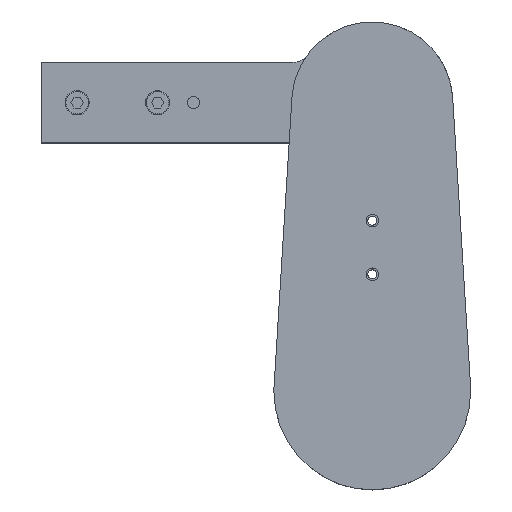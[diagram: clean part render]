
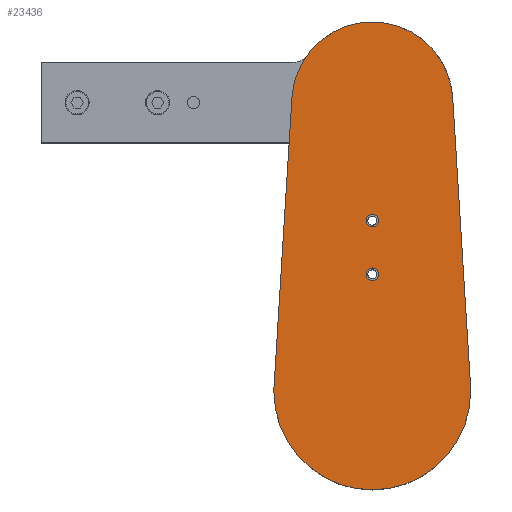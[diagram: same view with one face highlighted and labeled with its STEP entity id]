
A CAD part, top view. The second image highlights one B-rep face of the part: STEP entity #23436.
In plain terms, the highlighted planar face has unit normal (0, 0, 1) as drawn and (0, 0, -1) by its records, which use the part's own axes.
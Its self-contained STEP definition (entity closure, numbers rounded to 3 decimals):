
#355 = ORIENTED_EDGE ( 'NONE', *, *, #17053, .F. ) ;
#505 = VECTOR ( 'NONE', #28763, 1000. ) ;
#1197 = DIRECTION ( 'NONE',  ( 0., 0., 1. ) ) ;
#2006 = VERTEX_POINT ( 'NONE', #10545 ) ;
#2384 = EDGE_CURVE ( 'NONE', #33033, #23531, #34063, .T. ) ;
#2691 = CIRCLE ( 'NONE', #37302, 3.5 ) ;
#3336 = DIRECTION ( 'NONE',  ( 1., 0., 0. ) ) ;
#3681 = CARTESIAN_POINT ( 'NONE',  ( -44.914, 164.286, 0. ) ) ;
#3789 = VERTEX_POINT ( 'NONE', #31991 ) ;
#3832 = FACE_BOUND ( 'NONE', #16789, .T. ) ;
#5043 = DIRECTION ( 'NONE',  ( 1., 0., 0. ) ) ;
#5366 = ORIENTED_EDGE ( 'NONE', *, *, #8945, .F. ) ;
#5619 = CARTESIAN_POINT ( 'NONE',  ( -55., 0., 0. ) ) ;
#6025 = EDGE_CURVE ( 'NONE', #7250, #34264, #33856, .T. ) ;
#6193 = EDGE_CURVE ( 'NONE', #23531, #7250, #20326, .T. ) ;
#7250 = VERTEX_POINT ( 'NONE', #5619 ) ;
#7348 = DIRECTION ( 'NONE',  ( 1., 0., 0. ) ) ;
#8410 = EDGE_CURVE ( 'NONE', #11153, #38354, #23883, .T. ) ;
#8703 = DIRECTION ( 'NONE',  ( 1., 0., 0. ) ) ;
#8945 = EDGE_CURVE ( 'NONE', #34264, #13443, #26580, .T. ) ;
#9237 = CARTESIAN_POINT ( 'NONE',  ( 0., 0., 0. ) ) ;
#9358 = DIRECTION ( 'NONE',  ( 0., 0., 1. ) ) ;
#9403 = CARTESIAN_POINT ( 'NONE',  ( 54.894, 3.406, 0. ) ) ;
#10274 = ORIENTED_EDGE ( 'NONE', *, *, #2384, .F. ) ;
#10487 = ORIENTED_EDGE ( 'NONE', *, *, #15781, .F. ) ;
#10545 = CARTESIAN_POINT ( 'NONE',  ( -3.5, 95.5, 0. ) ) ;
#10930 = CARTESIAN_POINT ( 'NONE',  ( 0., 95.5, 0. ) ) ;
#11153 = VERTEX_POINT ( 'NONE', #17251 ) ;
#11339 = DIRECTION ( 'NONE',  ( 0., 0., 1. ) ) ;
#11395 = AXIS2_PLACEMENT_3D ( 'NONE', #30891, #1197, #7348 ) ;
#13199 = CARTESIAN_POINT ( 'NONE',  ( -3.5, 65.5, 0. ) ) ;
#13443 = VERTEX_POINT ( 'NONE', #9403 ) ;
#13837 = CARTESIAN_POINT ( 'NONE',  ( 0., 0., 0. ) ) ;
#13938 = DIRECTION ( 'NONE',  ( 0., 0., -1. ) ) ;
#13993 = EDGE_CURVE ( 'NONE', #3789, #33033, #24799, .T. ) ;
#14872 = CARTESIAN_POINT ( 'NONE',  ( 3.5, 95.5, 0. ) ) ;
#14909 = EDGE_LOOP ( 'NONE', ( #34252, #35558, #5366, #20717, #28791, #10274 ) ) ;
#14964 = CARTESIAN_POINT ( 'NONE',  ( 0., 65.5, 0. ) ) ;
#15441 = FACE_BOUND ( 'NONE', #17079, .T. ) ;
#15781 = EDGE_CURVE ( 'NONE', #2006, #19276, #21898, .T. ) ;
#16789 = EDGE_LOOP ( 'NONE', ( #34014, #10487 ) ) ;
#17053 = EDGE_CURVE ( 'NONE', #38354, #11153, #23454, .T. ) ;
#17079 = EDGE_LOOP ( 'NONE', ( #36936, #355 ) ) ;
#17235 = DIRECTION ( 'NONE',  ( -0.062, 0.998, 0. ) ) ;
#17251 = CARTESIAN_POINT ( 'NONE',  ( 3.5, 65.5, 0. ) ) ;
#17620 = DIRECTION ( 'NONE',  ( 1., 0., 0. ) ) ;
#19276 = VERTEX_POINT ( 'NONE', #14872 ) ;
#19989 = DIRECTION ( 'NONE',  ( 1., 0., 0. ) ) ;
#20326 = CIRCLE ( 'NONE', #34559, 55. ) ;
#20717 = ORIENTED_EDGE ( 'NONE', *, *, #6025, .F. ) ;
#21050 = CARTESIAN_POINT ( 'NONE',  ( -54.894, 3.406, 0. ) ) ;
#21527 = CARTESIAN_POINT ( 'NONE',  ( 55., 0., 0. ) ) ;
#21880 = FACE_OUTER_BOUND ( 'NONE', #14909, .T. ) ;
#21898 = CIRCLE ( 'NONE', #25293, 3.5 ) ;
#22543 = LINE ( 'NONE', #38147, #24444 ) ;
#23436 = ADVANCED_FACE ( 'NONE', ( #3832, #15441, #21880 ), #34628, .F. ) ;
#23454 = CIRCLE ( 'NONE', #26110, 3.5 ) ;
#23531 = VERTEX_POINT ( 'NONE', #21050 ) ;
#23883 = CIRCLE ( 'NONE', #24142, 3.5 ) ;
#24142 = AXIS2_PLACEMENT_3D ( 'NONE', #29698, #35515, #17620 ) ;
#24444 = VECTOR ( 'NONE', #17235, 1000. ) ;
#24799 = CIRCLE ( 'NONE', #34453, 45. ) ;
#25098 = EDGE_CURVE ( 'NONE', #13443, #3789, #22543, .T. ) ;
#25293 = AXIS2_PLACEMENT_3D ( 'NONE', #10930, #13938, #5043 ) ;
#25727 = CARTESIAN_POINT ( 'NONE',  ( 0., 161.5, 0. ) ) ;
#25987 = DIRECTION ( 'NONE',  ( 0., 0., 1. ) ) ;
#26110 = AXIS2_PLACEMENT_3D ( 'NONE', #14964, #32648, #3336 ) ;
#26157 = DIRECTION ( 'NONE',  ( 1., 0., 0. ) ) ;
#26545 = CARTESIAN_POINT ( 'NONE',  ( 0., 95.5, 0. ) ) ;
#26580 = CIRCLE ( 'NONE', #29897, 55. ) ;
#26786 = DIRECTION ( 'NONE',  ( 1., 0., 0. ) ) ;
#28763 = DIRECTION ( 'NONE',  ( -0.062, -0.998, 0. ) ) ;
#28764 = AXIS2_PLACEMENT_3D ( 'NONE', #37621, #9358, #26786 ) ;
#28791 = ORIENTED_EDGE ( 'NONE', *, *, #6193, .F. ) ;
#29698 = CARTESIAN_POINT ( 'NONE',  ( 0., 65.5, 0. ) ) ;
#29897 = AXIS2_PLACEMENT_3D ( 'NONE', #13837, #11339, #26157 ) ;
#29907 = DIRECTION ( 'NONE',  ( 0., 0., -1. ) ) ;
#30214 = EDGE_CURVE ( 'NONE', #19276, #2006, #2691, .T. ) ;
#30891 = CARTESIAN_POINT ( 'NONE',  ( 0., 0., 0. ) ) ;
#31991 = CARTESIAN_POINT ( 'NONE',  ( 44.914, 164.286, 0. ) ) ;
#32648 = DIRECTION ( 'NONE',  ( 0., 0., -1. ) ) ;
#32778 = DIRECTION ( 'NONE',  ( 0., 0., 1. ) ) ;
#33033 = VERTEX_POINT ( 'NONE', #3681 ) ;
#33856 = CIRCLE ( 'NONE', #11395, 55. ) ;
#34014 = ORIENTED_EDGE ( 'NONE', *, *, #30214, .F. ) ;
#34063 = LINE ( 'NONE', #34603, #505 ) ;
#34252 = ORIENTED_EDGE ( 'NONE', *, *, #13993, .F. ) ;
#34264 = VERTEX_POINT ( 'NONE', #21527 ) ;
#34453 = AXIS2_PLACEMENT_3D ( 'NONE', #25727, #25987, #19989 ) ;
#34559 = AXIS2_PLACEMENT_3D ( 'NONE', #9237, #32778, #35991 ) ;
#34603 = CARTESIAN_POINT ( 'NONE',  ( -44.914, 164.286, 0. ) ) ;
#34628 = PLANE ( 'NONE',  #28764 ) ;
#35515 = DIRECTION ( 'NONE',  ( 0., 0., -1. ) ) ;
#35558 = ORIENTED_EDGE ( 'NONE', *, *, #25098, .F. ) ;
#35991 = DIRECTION ( 'NONE',  ( 1., 0., 0. ) ) ;
#36936 = ORIENTED_EDGE ( 'NONE', *, *, #8410, .F. ) ;
#37302 = AXIS2_PLACEMENT_3D ( 'NONE', #26545, #29907, #8703 ) ;
#37621 = CARTESIAN_POINT ( 'NONE',  ( 0., 161.5, 0. ) ) ;
#38147 = CARTESIAN_POINT ( 'NONE',  ( 44.914, 164.286, 0. ) ) ;
#38354 = VERTEX_POINT ( 'NONE', #13199 ) ;
